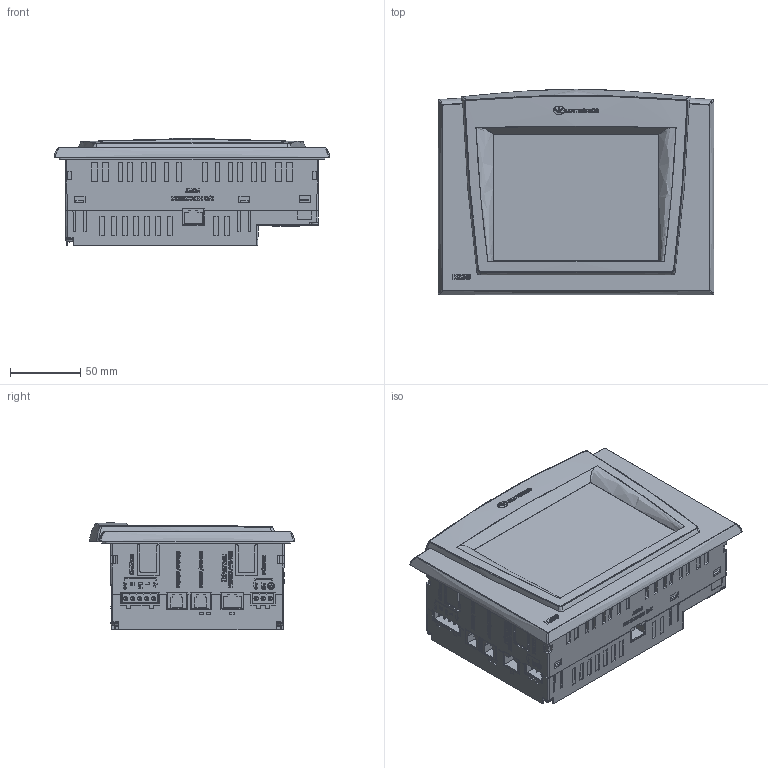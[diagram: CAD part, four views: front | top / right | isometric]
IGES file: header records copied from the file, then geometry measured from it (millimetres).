
Start section: SolidWorks IGES file using analytic representation for surfaces
Global section: file name: Z:\Products\V530\CAD Files\3D Files\IGES\V530-53-B20B.IGS; native system: SolidWorks 2011; preprocessor: SolidWorks 2011; author: baraki; date: 120624.093804; units: millimetre
Bounding box: 196.95 x 146.69 x 76.67 mm (x, y, z)
Surface area: 158573.9 mm2 (no closed solid volume)
Topology: 0 solids, 0 shells, 3953 faces, 36023 edges, 36019 vertices
Faces by surface type: bspline 3517, revolution 436
